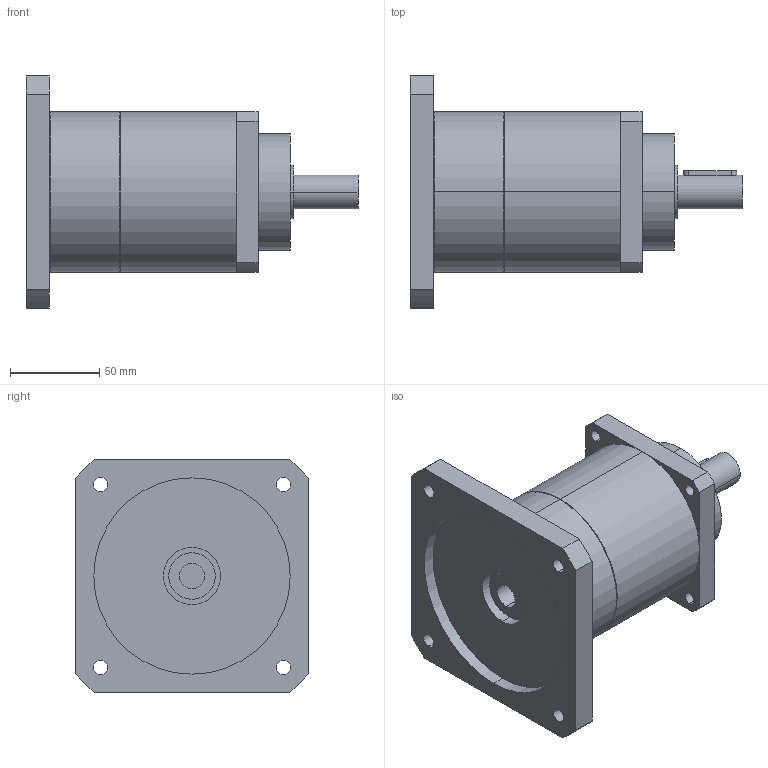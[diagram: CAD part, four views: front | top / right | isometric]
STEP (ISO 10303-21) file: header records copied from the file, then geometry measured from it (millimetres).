
FILE_DESCRIPTION(('CoCreate Modeling STEP Export'),'2;1');
FILE_NAME('GPT90_ig-9-12-16-20-25-28-35-40-50-70-100_19_B5T_14_P33.stp','2015-02-04T11:29:54',(''),(''),'CoCreate Modeling STEP processor for AP214 (Solid Model)','CoCreate Modeling 16.00C 25-Feb-2009 (C) Parametric Technology GmbH','');
FILE_SCHEMA(('AUTOMOTIVE_DESIGN { 1 0 10303 214 1 1 1 1 }'));
Length unit declared in the file: millimetre
Products named in the file (2): GPT90_ig-9-12-16-20-25-28-35-40-50-70-100_19_B5T_14_P33
Assembly tree (1 placements, depth 2):
  GPT90_ig-9-12-16-20-25-28-35-40-50-70-100_19_B5T_14_P33
    GPT90_ig-9-12-16-20-25-28-35-40-50-70-100_19_B5T_14_P33
Bounding box: 186 x 130 x 130 mm (x, y, z)
Volume: 973346.4 mm3; surface area: 90443.8 mm2
Topology: 1 solids, 1 shells, 77 faces, 206 edges, 141 vertices
Faces by surface type: cylinder 46, plane 27, cone 4
Entity records: 2596 total; most frequent: CARTESIAN_POINT 742, ORIENTED_EDGE 412, DIRECTION 324, EDGE_CURVE 206, VERTEX_POINT 141, AXIS2_PLACEMENT_3D 120, EDGE_LOOP 103, VECTOR 84
